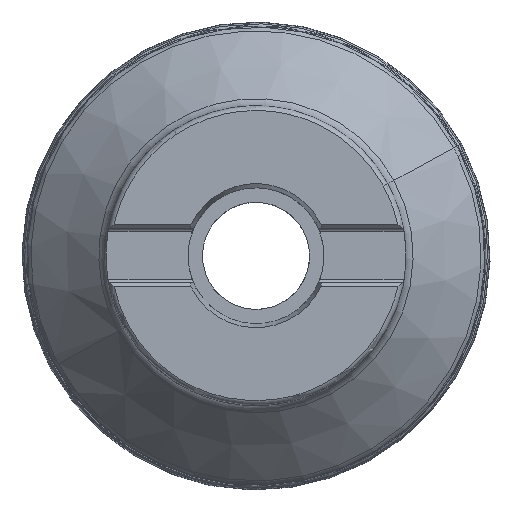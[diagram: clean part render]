
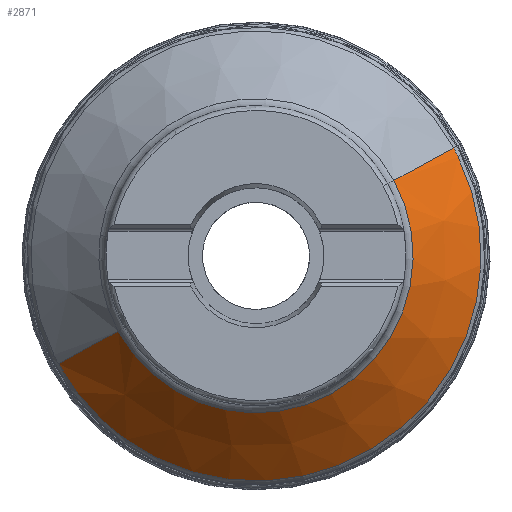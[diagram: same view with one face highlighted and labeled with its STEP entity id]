
A CAD part, top view. The second image highlights one B-rep face of the part: STEP entity #2871.
In plain terms, the highlighted conical face has half-angle 43.834 degrees and reference radius 35 mm.
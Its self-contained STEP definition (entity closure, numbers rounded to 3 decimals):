
#2674=AXIS2_PLACEMENT_3D('Circle Axis2P3D',#2672,#2673,$) ;
#2708=AXIS2_PLACEMENT_3D('Circle Axis2P3D',#2706,#2707,$) ;
#2742=AXIS2_PLACEMENT_3D('Circle Axis2P3D',#2740,#2741,$) ;
#2856=AXIS2_PLACEMENT_3D('Cone Axis2P3D',#2853,#2854,#2855) ;
#2860=AXIS2_PLACEMENT_3D('Circle Axis2P3D',#2858,#2859,$) ;
#2635=CARTESIAN_POINT('Vertex',(46.1,25.184,-38.259)) ;
#2672=CARTESIAN_POINT('Axis2P3D Location',(0.,0.,-38.259)) ;
#2676=CARTESIAN_POINT('Vertex',(47.177,23.103,-38.259)) ;
#2706=CARTESIAN_POINT('Axis2P3D Location',(0.,0.,-38.259)) ;
#2710=CARTESIAN_POINT('Vertex',(-30.325,-42.893,-38.259)) ;
#2740=CARTESIAN_POINT('Axis2P3D Location',(0.,0.,-38.259)) ;
#2744=CARTESIAN_POINT('Vertex',(-46.1,-25.184,-38.259)) ;
#2816=CARTESIAN_POINT('Line Origine',(303910.025,166026.803,-360676.027)) ;
#2820=CARTESIAN_POINT('Vertex',(32.183,17.581,-21.741)) ;
#2823=CARTESIAN_POINT('Line Origine',(-303910.025,-166026.803,-360676.027)) ;
#2827=CARTESIAN_POINT('Vertex',(-32.183,-17.581,-21.741)) ;
#2853=CARTESIAN_POINT('Axis2P3D Location',(0.,0.,-20.)) ;
#2858=CARTESIAN_POINT('Axis2P3D Location',(0.,0.,-21.741)) ;
#2673=DIRECTION('Axis2P3D Direction',(0.,0.,1.)) ;
#2707=DIRECTION('Axis2P3D Direction',(0.,0.,1.)) ;
#2741=DIRECTION('Axis2P3D Direction',(0.,0.,1.)) ;
#2817=DIRECTION('Vector Direction',(0.608,0.332,-0.721)) ;
#2824=DIRECTION('Vector Direction',(-0.608,-0.332,-0.721)) ;
#2854=DIRECTION('Axis2P3D Direction',(-0.,-0.,-1.)) ;
#2855=DIRECTION('Axis2P3D XDirection',(0.878,0.479,0.)) ;
#2859=DIRECTION('Axis2P3D Direction',(-0.,0.,-1.)) ;
#2818=VECTOR('Line Direction',#2817,1.) ;
#2825=VECTOR('Line Direction',#2824,1.) ;
#2864=ORIENTED_EDGE('',*,*,#2829,.F.) ;
#2865=ORIENTED_EDGE('',*,*,#2746,.T.) ;
#2866=ORIENTED_EDGE('',*,*,#2712,.T.) ;
#2867=ORIENTED_EDGE('',*,*,#2678,.T.) ;
#2868=ORIENTED_EDGE('',*,*,#2822,.T.) ;
#2869=ORIENTED_EDGE('',*,*,#2862,.T.) ;
#2871=ADVANCED_FACE('NOCUT',(#2870),#2857,.T.) ;
#2675=CIRCLE('generated circle',#2674,52.53) ;
#2709=CIRCLE('generated circle',#2708,52.53) ;
#2743=CIRCLE('generated circle',#2742,52.53) ;
#2861=CIRCLE('generated circle',#2860,36.672) ;
#2857=CONICAL_SURFACE('Cone',#2856,35.,0.765) ;
#2678=EDGE_CURVE('',#2677,#2636,#2675,.T.) ;
#2712=EDGE_CURVE('',#2711,#2677,#2709,.T.) ;
#2746=EDGE_CURVE('',#2745,#2711,#2743,.T.) ;
#2822=EDGE_CURVE('',#2636,#2821,#2819,.F.) ;
#2829=EDGE_CURVE('',#2745,#2828,#2826,.F.) ;
#2862=EDGE_CURVE('',#2821,#2828,#2861,.T.) ;
#2863=EDGE_LOOP('',(#2864,#2865,#2866,#2867,#2868,#2869)) ;
#2870=FACE_OUTER_BOUND('',#2863,.T.) ;
#2819=LINE('Line',#2816,#2818) ;
#2826=LINE('Line',#2823,#2825) ;
#2636=VERTEX_POINT('',#2635) ;
#2677=VERTEX_POINT('',#2676) ;
#2711=VERTEX_POINT('',#2710) ;
#2745=VERTEX_POINT('',#2744) ;
#2821=VERTEX_POINT('',#2820) ;
#2828=VERTEX_POINT('',#2827) ;
